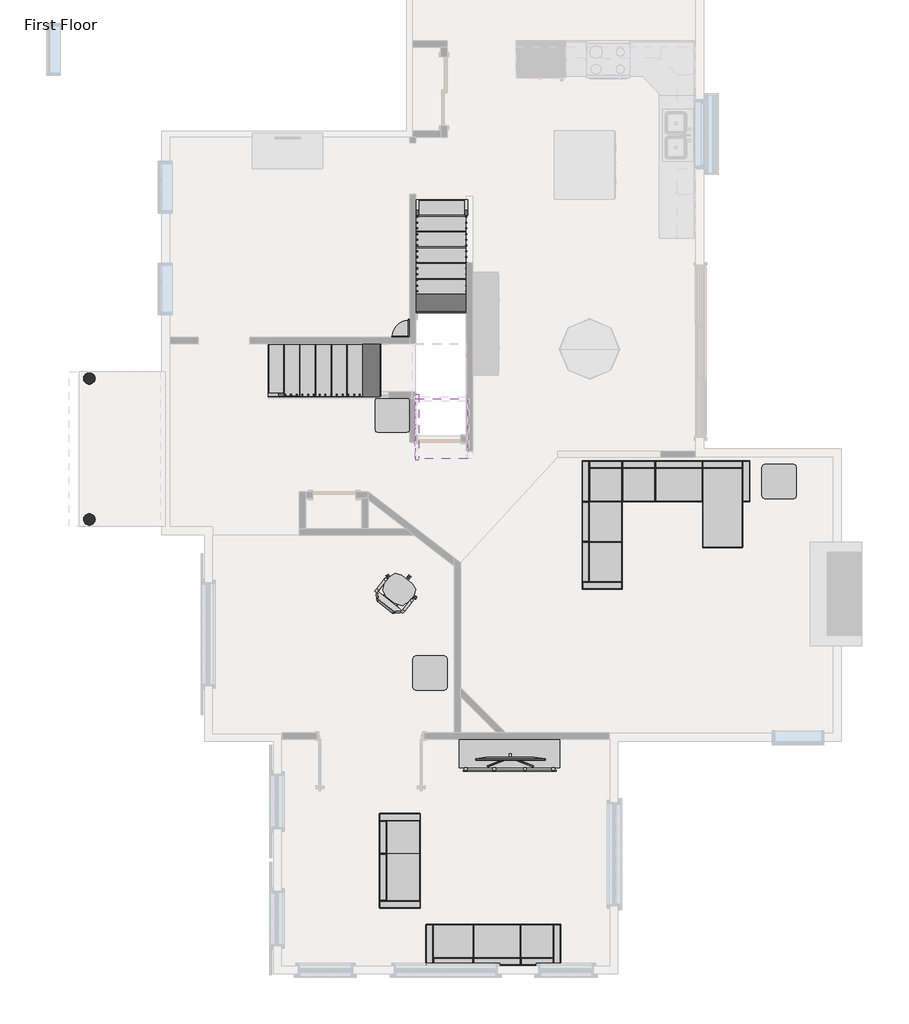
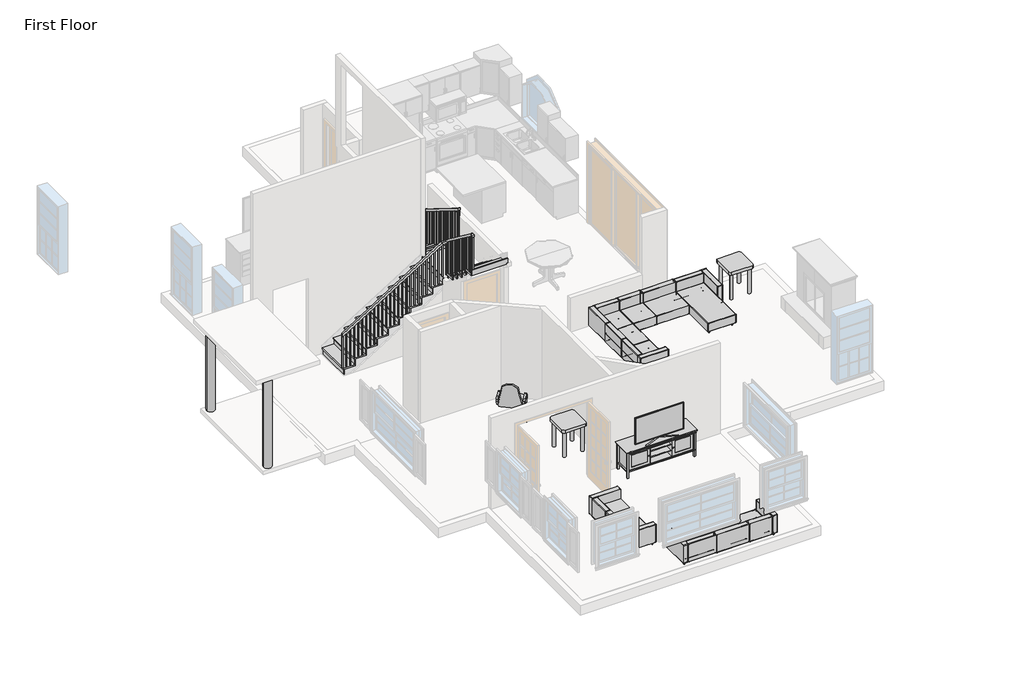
# One storey, part 2 of 3: 10 furniture elements, 4 railings, 3 stair flights, 2 columns.
"""IFC4 building model written with IfcOpenShell, lengths in millimetres."""

from ifc_helpers import new_model, si_unit, frame, origin, place, context, project, spatial, polyline, circle_curve, outline, extrude, faceted_brep, transform, mapped, element, save
from ifc_brep_helpers import plane_surface, cylinder_surface, advanced_brep
from components import chair_executive_chair_executive_328c2b5c, corner_shelf_6857_corner_shelf_6857_70984909, entertainment_center_10899_entertainment_center_10899_10a8ea42, led_tv_55quot_18122_led_tv_55quot_18122_4bed210d, multi_configuration_couch_22894_c0699ef3, multi_configuration_couch_22894_094c0ce7, multi_configuration_couch_22894_couch_5e26b473, multi_configuration_couch_22894_couch_a3e35ec5, multi_configuration_couch_22894_large_sectional_w_chaise_a777d03c, multi_configuration_couch_22894_large_sectional_w_chaise_e7fac233, multi_configuration_couch_22894_large_sectional_w_chaise_6dab8dc7, multi_configuration_couch_22894_large_sectional_w_chaise_7bcb906a, furniture_bcf351fa, stair_flight_06a28670, stair_flight_a5641ca7, stair_flight_c3c6c346

model = new_model("IFC4")

# Units and contexts
model_context = context("Model", 3, world=origin())
ifc_project = project(units=[si_unit("LENGTHUNIT", "METRE", prefix="MILLI")], contexts=[model_context])

# Site, building, storey
site = spatial("IfcSite", under=ifc_project)
building = spatial("IfcBuilding", under=site)
storey = spatial("IfcBuildingStorey", under=building, Name="First Floor", Elevation=0.0)

# Columns
placement = place(None, origin())
element("IfcColumn", 1, ObjectType="Round Column : 8\" Diameter", at=placement, inside=storey, context=model_context, shape_type="AdvancedBrep", body=[
    advanced_brep(
    [(-11886.6105992, -709.8327303, 0.0), (-12089.8105992, -709.8327303, 0.0), (-11988.2105992, -608.2327303, 0.0), (-11886.6105992, -709.8327303, 2362.2), (-11906.4582025, -770.1577303, 2362.2), (-11906.4582025, -770.1577303, 2438.4), (-12069.962996, -770.1577303, 2438.4), (-12069.962996, -770.1577303, 2362.2), (-12089.8105992, -709.8327303, 2362.2), (-11988.2105992, -608.2327303, 2362.2)],
    [
        (0, 1, circle_curve(frame((-11988.2105992, -709.8327303, 0.0), z_axis=(0.0, 0.0, -1.0), x_axis=(1.0, 0.0, 0.0)), 101.6)),
        (1, 2, circle_curve(frame((-11988.2105992, -709.8327303, 0.0), z_axis=(0.0, 0.0, -1.0), x_axis=(1.0, 0.0, 0.0)), 101.6)),
        (2, 0, circle_curve(frame((-11988.2105992, -709.8327303, 0.0), z_axis=(0.0, 0.0, -1.0), x_axis=(1.0, 0.0, 0.0)), 101.6)),
        (0, 3),
        (3, 4, circle_curve(frame((-11988.2105992, -709.8327303, 2362.2), z_axis=(0.0, 0.0, -1.0), x_axis=(1.0, 0.0, 0.0)), 101.6)),
        (4, 5),
        (5, 6, circle_curve(frame((-11988.2105992, -709.8327303, 2438.4), z_axis=(0.0, 0.0, -1.0), x_axis=(1.0, 0.0, 0.0)), 101.6)),
        (6, 7),
        (7, 8, circle_curve(frame((-11988.2105992, -709.8327303, 2362.2), z_axis=(0.0, 0.0, -1.0), x_axis=(1.0, 0.0, 0.0)), 101.6)),
        (8, 1),
        (8, 9, circle_curve(frame((-11988.2105992, -709.8327303, 2362.2), z_axis=(0.0, 0.0, -1.0), x_axis=(1.0, 0.0, 0.0)), 101.6)),
        (9, 2),
        (9, 3, circle_curve(frame((-11988.2105992, -709.8327303, 2362.2), z_axis=(0.0, 0.0, -1.0), x_axis=(1.0, 0.0, 0.0)), 101.6)),
        (5, 6),
        (4, 7),
    ],
    [
        plane_surface(frame((-11886.6105992, -709.8327303, 0.0), z_axis=(0.0, 0.0, -1.0), x_axis=(0.0, -1.0, 0.0))),
        cylinder_surface(frame((-11988.2105992, -709.8327303, 0.0), z_axis=(0.0, 0.0, 1.0), x_axis=(1.0, 0.0, 0.0)), 101.6),
        plane_surface(frame((-11886.6105992, -709.8327303, 2438.4), z_axis=(0.0, 0.0, 1.0), x_axis=(0.0, 1.0, 0.0))),
        plane_surface(frame((-12343.8105992, -770.1577303, 2362.2), z_axis=(0.0, 1.0, 0.0), x_axis=(1.0, 0.0, 0.0))),
        plane_surface(frame((-12343.8105992, -770.1577303, 2362.2), z_axis=(0.0, 0.0, 1.0), x_axis=(0.0, 1.0, 0.0))),
    ],
    [
        (0, [[1, 2, 3]]),
        (1, [[-1, 4, 5, 6, 7, 8, 9, 10]]),
        (1, [[-2, -10, 11, 12]]),
        (1, [[-3, -12, 13, -4]]),
        (2, [[-7, 14]]),
        (3, [[15, -8, -14, -6]]),
        (4, [[-15, -5, -13, -11, -9]]),
    ],
),
])
element("IfcColumn", 2, ObjectType="Round Column : 8\" Diameter", at=placement, inside=storey, context=model_context, shape_type="AdvancedBrep", body=[
    advanced_brep(
    [(-11886.6105992, -3205.3827303, 0.0), (-12089.8105992, -3205.3827303, 0.0), (-11988.2105992, -3103.7827303, 0.0), (-11886.6105992, -3205.3827303, 2362.2), (-12089.8105992, -3205.3827303, 2362.2), (-12074.2876541, -3151.4077303, 2362.2), (-12074.2876541, -3151.4077303, 2438.4), (-11988.2105992, -3103.7827303, 2438.4), (-11902.1335443, -3151.4077303, 2438.4), (-11902.1335443, -3151.4077303, 2362.2)],
    [
        (0, 1, circle_curve(frame((-11988.2105992, -3205.3827303, 0.0), z_axis=(0.0, 0.0, -1.0), x_axis=(1.0, 0.0, 0.0)), 101.6)),
        (1, 2, circle_curve(frame((-11988.2105992, -3205.3827303, 0.0), z_axis=(0.0, 0.0, -1.0), x_axis=(1.0, 0.0, 0.0)), 101.6)),
        (2, 0, circle_curve(frame((-11988.2105992, -3205.3827303, 0.0), z_axis=(0.0, 0.0, -1.0), x_axis=(1.0, 0.0, 0.0)), 101.6)),
        (0, 3),
        (3, 4, circle_curve(frame((-11988.2105992, -3205.3827303, 2362.2), z_axis=(0.0, 0.0, -1.0), x_axis=(1.0, 0.0, 0.0)), 101.6)),
        (4, 1),
        (4, 5, circle_curve(frame((-11988.2105992, -3205.3827303, 2362.2), z_axis=(0.0, 0.0, -1.0), x_axis=(1.0, 0.0, 0.0)), 101.6)),
        (5, 6),
        (6, 7, circle_curve(frame((-11988.2105992, -3205.3827303, 2438.4), z_axis=(0.0, 0.0, -1.0), x_axis=(1.0, 0.0, 0.0)), 101.6)),
        (7, 2),
        (7, 8, circle_curve(frame((-11988.2105992, -3205.3827303, 2438.4), z_axis=(0.0, 0.0, -1.0), x_axis=(1.0, 0.0, 0.0)), 101.6)),
        (8, 9),
        (9, 3, circle_curve(frame((-11988.2105992, -3205.3827303, 2362.2), z_axis=(0.0, 0.0, -1.0), x_axis=(1.0, 0.0, 0.0)), 101.6)),
        (6, 8),
        (5, 9),
    ],
    [
        plane_surface(frame((-11886.6105992, -3205.3827303, 0.0), z_axis=(0.0, 0.0, -1.0), x_axis=(0.0, -1.0, 0.0))),
        cylinder_surface(frame((-11988.2105992, -3205.3827303, 0.0), z_axis=(0.0, 0.0, 1.0), x_axis=(1.0, 0.0, 0.0)), 101.6),
        plane_surface(frame((-11886.6105992, -3205.3827303, 2438.4), z_axis=(0.0, 0.0, 1.0), x_axis=(0.0, 1.0, 0.0))),
        plane_surface(frame((-10732.4980992, -3151.4077303, 2362.2), z_axis=(0.0, -1.0, 0.0), x_axis=(-1.0, 0.0, 0.0))),
        plane_surface(frame((-10642.0105992, -3151.4077303, 2362.2), z_axis=(0.0, 0.0, 1.0), x_axis=(0.0, -1.0, 0.0))),
    ],
    [
        (0, [[1, 2, 3]]),
        (1, [[-1, 4, 5, 6]]),
        (1, [[-2, -6, 7, 8, 9, 10]]),
        (1, [[-3, -10, 11, 12, 13, -4]]),
        (2, [[-11, -9, 14]]),
        (3, [[15, -12, -14, -8]]),
        (4, [[-15, -7, -5, -13]]),
    ],
),
])

# Furniture
chair_executive_chair_executive_shape = chair_executive_chair_executive_328c2b5c(model_context)
element("IfcFurniture", 3, ObjectType="Chair-Executive : Chair-Executive", at=placement, inside=storey, context=model_context, shape_type="MappedRepresentation", body=[
    mapped(chair_executive_chair_executive_shape, transform((-6645.7142249, -4403.8618379, 6.35), x_axis=(0.7821446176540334, -0.6230969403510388, 0.0), y_axis=(0.6230969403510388, 0.7821446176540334, 0.0), z_axis=(0.0, 0.0, 1.0))),
])
corner_shelf_6857_corner_shelf_6857_shape = corner_shelf_6857_corner_shelf_6857_70984909(model_context)
element("IfcFurniture", 4, ObjectType="Corner_Shelf_6857 : Corner_Shelf_6857", at=placement, inside=storey, context=model_context, shape_type="MappedRepresentation", body=[
    mapped(corner_shelf_6857_corner_shelf_6857_shape, transform((-6316.0730992, -36.7327303, -304.8), x_axis=(1.0, 0.0, 0.0), y_axis=(0.0, 1.0, 0.0), z_axis=(0.0, 0.0, 1.0))),
])
entertainment_center_10899_entertainment_center_10899_shape = entertainment_center_10899_entertainment_center_10899_10a8ea42(model_context)
element("IfcFurniture", 5, ObjectType="Entertainment_Center_10899 : Entertainment_Center_10899", at=placement, inside=storey, context=model_context, shape_type="MappedRepresentation", body=[
    mapped(entertainment_center_10899_entertainment_center_10899_shape, transform((-4542.8355992, -7355.1077303, 6.35), x_axis=(1.0, 0.0, 0.0), y_axis=(0.0, 1.0, 0.0), z_axis=(0.0, 0.0, 1.0))),
])
led_tv_55quot_18122_led_tv_55quot_18122_shape = led_tv_55quot_18122_led_tv_55quot_18122_4bed210d(model_context)
element("IfcFurniture", 6, ObjectType="LED_TV_55quot_18122 : LED_TV_55quot_18122", at=placement, inside=storey, context=model_context, shape_type="MappedRepresentation", body=[
    mapped(led_tv_55quot_18122_led_tv_55quot_18122_shape, transform((-5490.5730992, -7450.3577303, 86.3803369), x_axis=(1.0, 0.0, 0.0), y_axis=(0.0, 1.0, 0.0), z_axis=(0.0, 0.0, 1.0))),
])
multi_configuration_couch_22894_shape = multi_configuration_couch_22894_c0699ef3(model_context)
multi_configuration_couch_22894_2_shape = multi_configuration_couch_22894_094c0ce7(model_context)
element("IfcFurniture", 7, ObjectType="Multi-Configuration_Couch_22894 : Love Seat 2", at=placement, inside=storey, context=model_context, shape_type="MappedRepresentation", body=[
    mapped(multi_configuration_couch_22894_shape, transform((-6020.74605, -9827.1315008, 6.35), x_axis=(0.0, 1.0, 0.0), y_axis=(-1.0, 0.0, 0.0), z_axis=(0.0, 0.0, 1.0))),
    mapped(multi_configuration_couch_22894_2_shape, transform((-6020.74605, -9827.1315008, 6.35), x_axis=(0.0, 1.0, 0.0), y_axis=(-1.0, 0.0, 0.0), z_axis=(0.0, 0.0, 1.0))),
])
multi_configuration_couch_22894_couch_shape = multi_configuration_couch_22894_couch_5e26b473(model_context)
multi_configuration_couch_22894_couch_2_shape = multi_configuration_couch_22894_couch_a3e35ec5(model_context)
element("IfcFurniture", 8, ObjectType="Multi-Configuration_Couch_22894 : Couch", at=placement, inside=storey, context=model_context, shape_type="MappedRepresentation", body=[
    mapped(multi_configuration_couch_22894_couch_shape, transform((-5047.9468697, -10272.8806812, 6.35), x_axis=(1.0, 0.0, 0.0), y_axis=(0.0, 1.0, 0.0), z_axis=(0.0, 0.0, 1.0))),
    mapped(multi_configuration_couch_22894_couch_2_shape, transform((-5047.9468697, -10272.8806812, 6.35), x_axis=(1.0, 0.0, 0.0), y_axis=(0.0, 1.0, 0.0), z_axis=(0.0, 0.0, 1.0))),
])
multi_configuration_couch_22894_large_sectional_w_chaise_shape = multi_configuration_couch_22894_large_sectional_w_chaise_a777d03c(model_context)
multi_configuration_couch_22894_large_sectional_w_chaise_2_shape = multi_configuration_couch_22894_large_sectional_w_chaise_e7fac233(model_context)
multi_configuration_couch_22894_large_sectional_w_chaise_3_shape = multi_configuration_couch_22894_large_sectional_w_chaise_6dab8dc7(model_context)
multi_configuration_couch_22894_large_sectional_w_chaise_4_shape = multi_configuration_couch_22894_large_sectional_w_chaise_7bcb906a(model_context)
element("IfcFurniture", 9, ObjectType="Multi-Configuration_Couch_22894 : Large Sectional W/ Chaise", at=placement, inside=storey, context=model_context, shape_type="MappedRepresentation", body=[
    mapped(multi_configuration_couch_22894_large_sectional_w_chaise_shape, transform((-1262.7743287, -2997.4722795, 6.35), x_axis=(-1.0, 0.0, 0.0), y_axis=(0.0, -1.0, 0.0), z_axis=(0.0, 0.0, 1.0))),
    mapped(multi_configuration_couch_22894_large_sectional_w_chaise_2_shape, transform((-1262.7743287, -2997.4722795, 6.35), x_axis=(-1.0, 0.0, 0.0), y_axis=(0.0, -1.0, 0.0), z_axis=(0.0, 0.0, 1.0))),
    mapped(multi_configuration_couch_22894_large_sectional_w_chaise_3_shape, transform((-1262.7743287, -2997.4722795, 6.35), x_axis=(-1.0, 0.0, 0.0), y_axis=(0.0, -1.0, 0.0), z_axis=(0.0, 0.0, 1.0))),
    mapped(multi_configuration_couch_22894_large_sectional_w_chaise_4_shape, transform((-1262.7743287, -2997.4722795, 6.35), x_axis=(-1.0, 0.0, 0.0), y_axis=(0.0, -1.0, 0.0), z_axis=(0.0, 0.0, 1.0))),
])
furniture_shape = furniture_bcf351fa(model_context)
element("IfcFurniture", 10, ObjectType="Table-End : 24\" x 24\"", at=placement, inside=storey, context=model_context, shape_type="MappedRepresentation", body=[
    mapped(furniture_shape, transform((-6259.4817295, -6081.9327303, 6.35), x_axis=(1.0, 0.0, 0.0), y_axis=(0.0, 1.0, 0.0), z_axis=(0.0, 0.0, 1.0))),
])
element("IfcFurniture", 11, ObjectType="Table-End : 24\" x 24\"", at=placement, inside=storey, context=model_context, shape_type="MappedRepresentation", body=[
    mapped(furniture_shape, transform((-76.1692295, -2689.4452303, 6.35), x_axis=(1.0, 0.0, 0.0), y_axis=(0.0, 1.0, 0.0), z_axis=(0.0, 0.0, 1.0))),
])
element("IfcFurniture", 12, ObjectType="Table-End : 24\" x 24\"", at=placement, inside=storey, context=model_context, shape_type="MappedRepresentation", body=[
    mapped(furniture_shape, transform((-6929.4067295, -1514.6952303, 6.35), x_axis=(1.0, 0.0, 0.0), y_axis=(0.0, 1.0, 0.0), z_axis=(0.0, 0.0, 1.0))),
])

# Railings
element("IfcRailing", 13, ObjectType="Handrail - Rectangular", at=placement, inside=storey, context=model_context, shape_type="SolidModel", body=[
    faceted_brep([(-8822.2912574, -971.7702303, 1088.5714286), (-8822.2912574, -971.7702303, 1028.7093152), (-8822.2912574, -1022.5702303, 1028.7093152), (-8822.2912574, -1022.5702303, 1088.5714286), (-6307.6912574, -971.7702303, 2656.1142857), (-6293.1541172, -971.7702303, 2605.3142857), (-6293.1541172, -1022.5702303, 2605.3142857), (-6307.6912574, -1022.5702303, 2656.1142857), (-6148.9412574, -971.7702303, 2656.1142857), (-6148.9412574, -1022.5702303, 2656.1142857), (-6148.9412574, -1022.5702303, 2605.3142857), (-6148.9412574, -971.7702303, 2605.3142857)], [[[0, 1, 2, 3]], [[1, 0, 4, 5]], [[2, 1, 5, 6]], [[3, 2, 6, 7]], [[0, 3, 7, 4]], [[8, 9, 10, 11]], [[5, 4, 8, 11]], [[6, 5, 11, 10]], [[7, 6, 10, 9]], [[4, 7, 9, 8]]]),
    extrude(outline(polyline([(-6190.2162574, -1006.6952303), (-6190.2162574, -987.6452303), (-6171.1662574, -987.6452303), (-6171.1662574, -1006.6952303), (-6190.2162574, -1006.6952303)])), frame((0.0, 0.0, 1741.7142857), z_axis=(0.0, 0.0, 1.0), x_axis=(1.0, 0.0, 0.0)), (0.0, 0.0, 1.0), 863.6),
    extrude(outline(polyline([(-6291.8162574, -1006.6952303), (-6291.8162574, -987.6452303), (-6272.7662574, -987.6452303), (-6272.7662574, -1006.6952303), (-6291.8162574, -1006.6952303)])), frame((0.0, 0.0, 1741.7142857), z_axis=(0.0, 0.0, 1.0), x_axis=(1.0, 0.0, 0.0)), (0.0, 0.0, 1.0), 863.6),
    extrude(outline(polyline([(2554.688536, -6374.3662574), (2542.8132113, -6393.4162574), (1567.5428571, -6393.4162574), (1567.5428571, -6374.3662574), (2554.688536, -6374.3662574)])), frame((0.0, -1006.6952303, 0.0), z_axis=(0.0, 1.0, 0.0), x_axis=(0.0, 0.0, 1.0)), (0.0, 0.0, 1.0), 19.05),
    extrude(outline(polyline([(2491.3534711, -6475.9662574), (2479.4781464, -6495.0162574), (1567.5428571, -6495.0162574), (1567.5428571, -6475.9662574), (2491.3534711, -6475.9662574)])), frame((0.0, -1006.6952303, 0.0), z_axis=(0.0, 1.0, 0.0), x_axis=(0.0, 0.0, 1.0)), (0.0, 0.0, 1.0), 19.05),
    extrude(outline(polyline([(2428.0184061, -6577.5662574), (2416.1430815, -6596.6162574), (1567.5428571, -6596.6162574), (1567.5428571, -6577.5662574), (2428.0184061, -6577.5662574)])), frame((0.0, -1006.6952303, 0.0), z_axis=(0.0, 1.0, 0.0), x_axis=(0.0, 0.0, 1.0)), (0.0, 0.0, 1.0), 19.05),
    extrude(outline(polyline([(2364.6833412, -6679.1662574), (2352.8080165, -6698.2162574), (1393.3714286, -6698.2162574), (1393.3714286, -6679.1662574), (2364.6833412, -6679.1662574)])), frame((0.0, -1006.6952303, 0.0), z_axis=(0.0, 1.0, 0.0), x_axis=(0.0, 0.0, 1.0)), (0.0, 0.0, 1.0), 19.05),
    extrude(outline(polyline([(2301.3482763, -6780.7662574), (2289.4729516, -6799.8162574), (1393.3714286, -6799.8162574), (1393.3714286, -6780.7662574), (2301.3482763, -6780.7662574)])), frame((0.0, -1006.6952303, 0.0), z_axis=(0.0, 1.0, 0.0), x_axis=(0.0, 0.0, 1.0)), (0.0, 0.0, 1.0), 19.05),
    extrude(outline(polyline([(2238.0132113, -6882.3662574), (2226.1378867, -6901.4162574), (1219.2, -6901.4162574), (1219.2, -6882.3662574), (2238.0132113, -6882.3662574)])), frame((0.0, -1006.6952303, 0.0), z_axis=(0.0, 1.0, 0.0), x_axis=(0.0, 0.0, 1.0)), (0.0, 0.0, 1.0), 19.05),
    extrude(outline(polyline([(2174.6781464, -6983.9662574), (2162.8028217, -7003.0162574), (1219.2, -7003.0162574), (1219.2, -6983.9662574), (2174.6781464, -6983.9662574)])), frame((0.0, -1006.6952303, 0.0), z_axis=(0.0, 1.0, 0.0), x_axis=(0.0, 0.0, 1.0)), (0.0, 0.0, 1.0), 19.05),
    extrude(outline(polyline([(2111.3430815, -7085.5662574), (2099.4677568, -7104.6162574), (1219.2, -7104.6162574), (1219.2, -7085.5662574), (2111.3430815, -7085.5662574)])), frame((0.0, -1006.6952303, 0.0), z_axis=(0.0, 1.0, 0.0), x_axis=(0.0, 0.0, 1.0)), (0.0, 0.0, 1.0), 19.05),
    extrude(outline(polyline([(2048.0080165, -7187.1662574), (2036.1326919, -7206.2162574), (1045.0285714, -7206.2162574), (1045.0285714, -7187.1662574), (2048.0080165, -7187.1662574)])), frame((0.0, -1006.6952303, 0.0), z_axis=(0.0, 1.0, 0.0), x_axis=(0.0, 0.0, 1.0)), (0.0, 0.0, 1.0), 19.05),
    extrude(outline(polyline([(1984.6729516, -7288.7662574), (1972.7976269, -7307.8162574), (1045.0285714, -7307.8162574), (1045.0285714, -7288.7662574), (1984.6729516, -7288.7662574)])), frame((0.0, -1006.6952303, 0.0), z_axis=(0.0, 1.0, 0.0), x_axis=(0.0, 0.0, 1.0)), (0.0, 0.0, 1.0), 19.05),
    extrude(outline(polyline([(1921.3378867, -7390.3662574), (1909.462562, -7409.4162574), (1045.0285714, -7409.4162574), (1045.0285714, -7390.3662574), (1921.3378867, -7390.3662574)])), frame((0.0, -1006.6952303, 0.0), z_axis=(0.0, 1.0, 0.0), x_axis=(0.0, 0.0, 1.0)), (0.0, 0.0, 1.0), 19.05),
    extrude(outline(polyline([(1858.0028217, -7491.9662574), (1846.1274971, -7511.0162574), (870.8571429, -7511.0162574), (870.8571429, -7491.9662574), (1858.0028217, -7491.9662574)])), frame((0.0, -1006.6952303, 0.0), z_axis=(0.0, 1.0, 0.0), x_axis=(0.0, 0.0, 1.0)), (0.0, 0.0, 1.0), 19.05),
    extrude(outline(polyline([(1794.6677568, -7593.5662574), (1782.7924321, -7612.6162574), (870.8571429, -7612.6162574), (870.8571429, -7593.5662574), (1794.6677568, -7593.5662574)])), frame((0.0, -1006.6952303, 0.0), z_axis=(0.0, 1.0, 0.0), x_axis=(0.0, 0.0, 1.0)), (0.0, 0.0, 1.0), 19.05),
    extrude(outline(polyline([(1731.3326919, -7695.1662574), (1719.4573672, -7714.2162574), (870.8571429, -7714.2162574), (870.8571429, -7695.1662574), (1731.3326919, -7695.1662574)])), frame((0.0, -1006.6952303, 0.0), z_axis=(0.0, 1.0, 0.0), x_axis=(0.0, 0.0, 1.0)), (0.0, 0.0, 1.0), 19.05),
    extrude(outline(polyline([(1667.9976269, -7796.7662574), (1656.1223023, -7815.8162574), (696.6857143, -7815.8162574), (696.6857143, -7796.7662574), (1667.9976269, -7796.7662574)])), frame((0.0, -1006.6952303, 0.0), z_axis=(0.0, 1.0, 0.0), x_axis=(0.0, 0.0, 1.0)), (0.0, 0.0, 1.0), 19.05),
    extrude(outline(polyline([(1604.662562, -7898.3662574), (1592.7872373, -7917.4162574), (696.6857143, -7917.4162574), (696.6857143, -7898.3662574), (1604.662562, -7898.3662574)])), frame((0.0, -1006.6952303, 0.0), z_axis=(0.0, 1.0, 0.0), x_axis=(0.0, 0.0, 1.0)), (0.0, 0.0, 1.0), 19.05),
    extrude(outline(polyline([(1541.3274971, -7999.9662574), (1529.4521724, -8019.0162574), (522.5142857, -8019.0162574), (522.5142857, -7999.9662574), (1541.3274971, -7999.9662574)])), frame((0.0, -1006.6952303, 0.0), z_axis=(0.0, 1.0, 0.0), x_axis=(0.0, 0.0, 1.0)), (0.0, 0.0, 1.0), 19.05),
    extrude(outline(polyline([(1477.9924321, -8101.5662574), (1466.1171074, -8120.6162574), (522.5142857, -8120.6162574), (522.5142857, -8101.5662574), (1477.9924321, -8101.5662574)])), frame((0.0, -1006.6952303, 0.0), z_axis=(0.0, 1.0, 0.0), x_axis=(0.0, 0.0, 1.0)), (0.0, 0.0, 1.0), 19.05),
    extrude(outline(polyline([(1414.6573672, -8203.1662574), (1402.7820425, -8222.2162574), (522.5142857, -8222.2162574), (522.5142857, -8203.1662574), (1414.6573672, -8203.1662574)])), frame((0.0, -1006.6952303, 0.0), z_axis=(0.0, 1.0, 0.0), x_axis=(0.0, 0.0, 1.0)), (0.0, 0.0, 1.0), 19.05),
    extrude(outline(polyline([(1351.3223023, -8304.7662574), (1339.4469776, -8323.8162574), (348.3428571, -8323.8162574), (348.3428571, -8304.7662574), (1351.3223023, -8304.7662574)])), frame((0.0, -1006.6952303, 0.0), z_axis=(0.0, 1.0, 0.0), x_axis=(0.0, 0.0, 1.0)), (0.0, 0.0, 1.0), 19.05),
    extrude(outline(polyline([(1287.9872373, -8406.3662574), (1276.1119126, -8425.4162574), (348.3428571, -8425.4162574), (348.3428571, -8406.3662574), (1287.9872373, -8406.3662574)])), frame((0.0, -1006.6952303, 0.0), z_axis=(0.0, 1.0, 0.0), x_axis=(0.0, 0.0, 1.0)), (0.0, 0.0, 1.0), 19.05),
    extrude(outline(polyline([(1224.6521724, -8507.9662574), (1212.7768477, -8527.0162574), (348.3428571, -8527.0162574), (348.3428571, -8507.9662574), (1224.6521724, -8507.9662574)])), frame((0.0, -1006.6952303, 0.0), z_axis=(0.0, 1.0, 0.0), x_axis=(0.0, 0.0, 1.0)), (0.0, 0.0, 1.0), 19.05),
    extrude(outline(polyline([(1161.3171074, -8609.5662574), (1149.4417828, -8628.6162574), (174.1714286, -8628.6162574), (174.1714286, -8609.5662574), (1161.3171074, -8609.5662574)])), frame((0.0, -1006.6952303, 0.0), z_axis=(0.0, 1.0, 0.0), x_axis=(0.0, 0.0, 1.0)), (0.0, 0.0, 1.0), 19.05),
    extrude(outline(polyline([(1097.9820425, -8711.1662574), (1086.1067178, -8730.2162574), (174.1714286, -8730.2162574), (174.1714286, -8711.1662574), (1097.9820425, -8711.1662574)])), frame((0.0, -1006.6952303, 0.0), z_axis=(0.0, 1.0, 0.0), x_axis=(0.0, 0.0, 1.0)), (0.0, 0.0, 1.0), 19.05),
    extrude(outline(polyline([(-6167.9912574, -1006.6952303), (-6167.9912574, -987.6452303), (-6148.9412574, -987.6452303), (-6148.9412574, -1006.6952303), (-6167.9912574, -1006.6952303)])), frame((0.0, 0.0, 1741.7142857), z_axis=(0.0, 0.0, 1.0), x_axis=(1.0, 0.0, 0.0)), (0.0, 0.0, 1.0), 863.6),
    extrude(outline(polyline([(1040.5846399, -8803.2412574), (1028.7093152, -8822.2912574), (174.1714286, -8822.2912574), (174.1714286, -8803.2412574), (1040.5846399, -8803.2412574)])), frame((0.0, -1006.6952303, 0.0), z_axis=(0.0, 1.0, 0.0), x_axis=(0.0, 0.0, 1.0)), (0.0, 0.0, 1.0), 19.05),
])
element("IfcRailing", 14, ObjectType="Handrail - Rectangular", at=placement, inside=storey, context=model_context, shape_type="SolidModel", body=[
    faceted_brep([(-6150.9730992, -993.9952303, 2686.05), (-6150.9730992, -993.9952303, 2622.55), (-6201.7730992, -993.9952303, 2622.55), (-6201.7730992, -993.9952303, 2686.05), (-6150.9730992, -2086.1952303, 3505.2), (-6150.9730992, -2103.1285637, 3454.4), (-6201.7730992, -2103.1285637, 3454.4), (-6201.7730992, -2086.1952303, 3505.2), (-6150.9730992, -2162.3952303, 3505.2), (-6201.7730992, -2162.3952303, 3505.2), (-6201.7730992, -2162.3952303, 3454.4), (-6150.9730992, -2162.3952303, 3454.4)], [[[0, 1, 2, 3]], [[1, 0, 4, 5]], [[2, 1, 5, 6]], [[3, 2, 6, 7]], [[0, 3, 7, 4]], [[8, 9, 10, 11]], [[5, 4, 8, 11]], [[6, 5, 11, 10]], [[7, 6, 10, 9]], [[4, 7, 9, 8]]]),
    extrude(outline(polyline([(-6185.8980992, -2102.0702303), (-6166.8480992, -2102.0702303), (-6166.8480992, -2121.1202303), (-6185.8980992, -2121.1202303), (-6185.8980992, -2102.0702303)])), frame((0.0, 0.0, 2590.8), z_axis=(0.0, 0.0, 1.0), x_axis=(1.0, 0.0, 0.0)), (0.0, 0.0, 1.0), 863.6),
    extrude(outline(polyline([(-2019.5202303, 3391.69375), (-2000.4702303, 3377.40625), (-2000.4702303, 2438.4), (-2019.5202303, 2438.4), (-2019.5202303, 3391.69375)])), frame((-6185.8980992, 0.0, 0.0), z_axis=(1.0, 0.0, 0.0), x_axis=(0.0, 1.0, 0.0)), (0.0, 0.0, 1.0), 19.05),
    extrude(outline(polyline([(-1917.9202303, 3315.49375), (-1898.8702303, 3301.20625), (-1898.8702303, 2438.4), (-1917.9202303, 2438.4), (-1917.9202303, 3315.49375)])), frame((-6185.8980992, 0.0, 0.0), z_axis=(1.0, 0.0, 0.0), x_axis=(0.0, 1.0, 0.0)), (0.0, 0.0, 1.0), 19.05),
    extrude(outline(polyline([(-1816.3202303, 3239.29375), (-1797.2702303, 3225.00625), (-1797.2702303, 2286.0), (-1816.3202303, 2286.0), (-1816.3202303, 3239.29375)])), frame((-6185.8980992, 0.0, 0.0), z_axis=(1.0, 0.0, 0.0), x_axis=(0.0, 1.0, 0.0)), (0.0, 0.0, 1.0), 19.05),
    extrude(outline(polyline([(-1714.7202303, 3163.09375), (-1695.6702303, 3148.80625), (-1695.6702303, 2286.0), (-1714.7202303, 2286.0), (-1714.7202303, 3163.09375)])), frame((-6185.8980992, 0.0, 0.0), z_axis=(1.0, 0.0, 0.0), x_axis=(0.0, 1.0, 0.0)), (0.0, 0.0, 1.0), 19.05),
    extrude(outline(polyline([(-1613.1202303, 3086.89375), (-1594.0702303, 3072.60625), (-1594.0702303, 2133.6), (-1613.1202303, 2133.6), (-1613.1202303, 3086.89375)])), frame((-6185.8980992, 0.0, 0.0), z_axis=(1.0, 0.0, 0.0), x_axis=(0.0, 1.0, 0.0)), (0.0, 0.0, 1.0), 19.05),
    extrude(outline(polyline([(-1511.5202303, 3010.69375), (-1492.4702303, 2996.40625), (-1492.4702303, 2133.6), (-1511.5202303, 2133.6), (-1511.5202303, 3010.69375)])), frame((-6185.8980992, 0.0, 0.0), z_axis=(1.0, 0.0, 0.0), x_axis=(0.0, 1.0, 0.0)), (0.0, 0.0, 1.0), 19.05),
    extrude(outline(polyline([(-1409.9202303, 2934.49375), (-1390.8702303, 2920.20625), (-1390.8702303, 1981.2), (-1409.9202303, 1981.2), (-1409.9202303, 2934.49375)])), frame((-6185.8980992, 0.0, 0.0), z_axis=(1.0, 0.0, 0.0), x_axis=(0.0, 1.0, 0.0)), (0.0, 0.0, 1.0), 19.05),
    extrude(outline(polyline([(-1308.3202303, 2858.29375), (-1289.2702303, 2844.00625), (-1289.2702303, 1981.2), (-1308.3202303, 1981.2), (-1308.3202303, 2858.29375)])), frame((-6185.8980992, 0.0, 0.0), z_axis=(1.0, 0.0, 0.0), x_axis=(0.0, 1.0, 0.0)), (0.0, 0.0, 1.0), 19.05),
    extrude(outline(polyline([(-1206.7202303, 2782.09375), (-1187.6702303, 2767.80625), (-1187.6702303, 1828.8), (-1206.7202303, 1828.8), (-1206.7202303, 2782.09375)])), frame((-6185.8980992, 0.0, 0.0), z_axis=(1.0, 0.0, 0.0), x_axis=(0.0, 1.0, 0.0)), (0.0, 0.0, 1.0), 19.05),
    extrude(outline(polyline([(-1105.1202303, 2705.89375), (-1086.0702303, 2691.60625), (-1086.0702303, 1828.8), (-1105.1202303, 1828.8), (-1105.1202303, 2705.89375)])), frame((-6185.8980992, 0.0, 0.0), z_axis=(1.0, 0.0, 0.0), x_axis=(0.0, 1.0, 0.0)), (0.0, 0.0, 1.0), 19.05),
    extrude(outline(polyline([(-6185.8980992, -2143.3452303), (-6166.8480992, -2143.3452303), (-6166.8480992, -2162.3952303), (-6185.8980992, -2162.3952303), (-6185.8980992, -2143.3452303)])), frame((0.0, 0.0, 2590.8), z_axis=(0.0, 0.0, 1.0), x_axis=(1.0, 0.0, 0.0)), (0.0, 0.0, 1.0), 863.6),
    extrude(outline(polyline([(-1013.0452303, 2636.8375), (-993.9952303, 2622.55), (-993.9952303, 1778.79375), (-1013.0452303, 1778.79375), (-1013.0452303, 2636.8375)])), frame((-6185.8980992, 0.0, 0.0), z_axis=(1.0, 0.0, 0.0), x_axis=(0.0, 1.0, 0.0)), (0.0, 0.0, 1.0), 19.05),
])
element("IfcRailing", 15, ObjectType="Handrail - Rectangular", at=placement, inside=storey, context=model_context, shape_type="SweptSolid", body=[
    extrude(outline(polyline([(2457.2297697, 1088.5714286), (2457.2297697, 1028.7093152), (-57.3702303, 2596.2521724), (-57.3702303, 2656.1142857), (2457.2297697, 1088.5714286)])), frame((-6201.7730992, 0.0, 0.0), z_axis=(1.0, 0.0, 0.0), x_axis=(0.0, 1.0, 0.0)), (0.0, 0.0, 1.0), 50.8),
    extrude(outline(polyline([(9.3047697, 2554.688536), (28.3547697, 2542.8132113), (28.3547697, 1567.5428571), (9.3047697, 1567.5428571), (9.3047697, 2554.688536)])), frame((-6185.8980992, 0.0, 0.0), z_axis=(1.0, 0.0, 0.0), x_axis=(0.0, 1.0, 0.0)), (0.0, 0.0, 1.0), 19.05),
    extrude(outline(polyline([(110.9047697, 2491.3534711), (129.9547697, 2479.4781464), (129.9547697, 1567.5428571), (110.9047697, 1567.5428571), (110.9047697, 2491.3534711)])), frame((-6185.8980992, 0.0, 0.0), z_axis=(1.0, 0.0, 0.0), x_axis=(0.0, 1.0, 0.0)), (0.0, 0.0, 1.0), 19.05),
    extrude(outline(polyline([(212.5047697, 2428.0184061), (231.5547697, 2416.1430815), (231.5547697, 1567.5428571), (212.5047697, 1567.5428571), (212.5047697, 2428.0184061)])), frame((-6185.8980992, 0.0, 0.0), z_axis=(1.0, 0.0, 0.0), x_axis=(0.0, 1.0, 0.0)), (0.0, 0.0, 1.0), 19.05),
    extrude(outline(polyline([(314.1047697, 2364.6833412), (333.1547697, 2352.8080165), (333.1547697, 1393.3714286), (314.1047697, 1393.3714286), (314.1047697, 2364.6833412)])), frame((-6185.8980992, 0.0, 0.0), z_axis=(1.0, 0.0, 0.0), x_axis=(0.0, 1.0, 0.0)), (0.0, 0.0, 1.0), 19.05),
    extrude(outline(polyline([(415.7047697, 2301.3482763), (434.7547697, 2289.4729516), (434.7547697, 1393.3714286), (415.7047697, 1393.3714286), (415.7047697, 2301.3482763)])), frame((-6185.8980992, 0.0, 0.0), z_axis=(1.0, 0.0, 0.0), x_axis=(0.0, 1.0, 0.0)), (0.0, 0.0, 1.0), 19.05),
    extrude(outline(polyline([(517.3047697, 2238.0132113), (536.3547697, 2226.1378867), (536.3547697, 1219.2), (517.3047697, 1219.2), (517.3047697, 2238.0132113)])), frame((-6185.8980992, 0.0, 0.0), z_axis=(1.0, 0.0, 0.0), x_axis=(0.0, 1.0, 0.0)), (0.0, 0.0, 1.0), 19.05),
    extrude(outline(polyline([(618.9047697, 2174.6781464), (637.9547697, 2162.8028217), (637.9547697, 1219.2), (618.9047697, 1219.2), (618.9047697, 2174.6781464)])), frame((-6185.8980992, 0.0, 0.0), z_axis=(1.0, 0.0, 0.0), x_axis=(0.0, 1.0, 0.0)), (0.0, 0.0, 1.0), 19.05),
    extrude(outline(polyline([(720.5047697, 2111.3430815), (739.5547697, 2099.4677568), (739.5547697, 1219.2), (720.5047697, 1219.2), (720.5047697, 2111.3430815)])), frame((-6185.8980992, 0.0, 0.0), z_axis=(1.0, 0.0, 0.0), x_axis=(0.0, 1.0, 0.0)), (0.0, 0.0, 1.0), 19.05),
    extrude(outline(polyline([(822.1047697, 2048.0080165), (841.1547697, 2036.1326919), (841.1547697, 1045.0285714), (822.1047697, 1045.0285714), (822.1047697, 2048.0080165)])), frame((-6185.8980992, 0.0, 0.0), z_axis=(1.0, 0.0, 0.0), x_axis=(0.0, 1.0, 0.0)), (0.0, 0.0, 1.0), 19.05),
    extrude(outline(polyline([(923.7047697, 1984.6729516), (942.7547697, 1972.7976269), (942.7547697, 1045.0285714), (923.7047697, 1045.0285714), (923.7047697, 1984.6729516)])), frame((-6185.8980992, 0.0, 0.0), z_axis=(1.0, 0.0, 0.0), x_axis=(0.0, 1.0, 0.0)), (0.0, 0.0, 1.0), 19.05),
    extrude(outline(polyline([(1025.3047697, 1921.3378867), (1044.3547697, 1909.462562), (1044.3547697, 1045.0285714), (1025.3047697, 1045.0285714), (1025.3047697, 1921.3378867)])), frame((-6185.8980992, 0.0, 0.0), z_axis=(1.0, 0.0, 0.0), x_axis=(0.0, 1.0, 0.0)), (0.0, 0.0, 1.0), 19.05),
    extrude(outline(polyline([(1126.9047697, 1858.0028217), (1145.9547697, 1846.1274971), (1145.9547697, 870.8571429), (1126.9047697, 870.8571429), (1126.9047697, 1858.0028217)])), frame((-6185.8980992, 0.0, 0.0), z_axis=(1.0, 0.0, 0.0), x_axis=(0.0, 1.0, 0.0)), (0.0, 0.0, 1.0), 19.05),
    extrude(outline(polyline([(1228.5047697, 1794.6677568), (1247.5547697, 1782.7924321), (1247.5547697, 870.8571429), (1228.5047697, 870.8571429), (1228.5047697, 1794.6677568)])), frame((-6185.8980992, 0.0, 0.0), z_axis=(1.0, 0.0, 0.0), x_axis=(0.0, 1.0, 0.0)), (0.0, 0.0, 1.0), 19.05),
    extrude(outline(polyline([(1330.1047697, 1731.3326919), (1349.1547697, 1719.4573672), (1349.1547697, 870.8571429), (1330.1047697, 870.8571429), (1330.1047697, 1731.3326919)])), frame((-6185.8980992, 0.0, 0.0), z_axis=(1.0, 0.0, 0.0), x_axis=(0.0, 1.0, 0.0)), (0.0, 0.0, 1.0), 19.05),
    extrude(outline(polyline([(1431.7047697, 1667.9976269), (1450.7547697, 1656.1223023), (1450.7547697, 696.6857143), (1431.7047697, 696.6857143), (1431.7047697, 1667.9976269)])), frame((-6185.8980992, 0.0, 0.0), z_axis=(1.0, 0.0, 0.0), x_axis=(0.0, 1.0, 0.0)), (0.0, 0.0, 1.0), 19.05),
    extrude(outline(polyline([(1533.3047697, 1604.662562), (1552.3547697, 1592.7872373), (1552.3547697, 696.6857143), (1533.3047697, 696.6857143), (1533.3047697, 1604.662562)])), frame((-6185.8980992, 0.0, 0.0), z_axis=(1.0, 0.0, 0.0), x_axis=(0.0, 1.0, 0.0)), (0.0, 0.0, 1.0), 19.05),
    extrude(outline(polyline([(1634.9047697, 1541.3274971), (1653.9547697, 1529.4521724), (1653.9547697, 522.5142857), (1634.9047697, 522.5142857), (1634.9047697, 1541.3274971)])), frame((-6185.8980992, 0.0, 0.0), z_axis=(1.0, 0.0, 0.0), x_axis=(0.0, 1.0, 0.0)), (0.0, 0.0, 1.0), 19.05),
    extrude(outline(polyline([(1736.5047697, 1477.9924321), (1755.5547697, 1466.1171074), (1755.5547697, 522.5142857), (1736.5047697, 522.5142857), (1736.5047697, 1477.9924321)])), frame((-6185.8980992, 0.0, 0.0), z_axis=(1.0, 0.0, 0.0), x_axis=(0.0, 1.0, 0.0)), (0.0, 0.0, 1.0), 19.05),
    extrude(outline(polyline([(1838.1047697, 1414.6573672), (1857.1547697, 1402.7820425), (1857.1547697, 522.5142857), (1838.1047697, 522.5142857), (1838.1047697, 1414.6573672)])), frame((-6185.8980992, 0.0, 0.0), z_axis=(1.0, 0.0, 0.0), x_axis=(0.0, 1.0, 0.0)), (0.0, 0.0, 1.0), 19.05),
    extrude(outline(polyline([(1939.7047697, 1351.3223023), (1958.7547697, 1339.4469776), (1958.7547697, 348.3428571), (1939.7047697, 348.3428571), (1939.7047697, 1351.3223023)])), frame((-6185.8980992, 0.0, 0.0), z_axis=(1.0, 0.0, 0.0), x_axis=(0.0, 1.0, 0.0)), (0.0, 0.0, 1.0), 19.05),
    extrude(outline(polyline([(2041.3047697, 1287.9872373), (2060.3547697, 1276.1119126), (2060.3547697, 348.3428571), (2041.3047697, 348.3428571), (2041.3047697, 1287.9872373)])), frame((-6185.8980992, 0.0, 0.0), z_axis=(1.0, 0.0, 0.0), x_axis=(0.0, 1.0, 0.0)), (0.0, 0.0, 1.0), 19.05),
    extrude(outline(polyline([(2142.9047697, 1224.6521724), (2161.9547697, 1212.7768477), (2161.9547697, 348.3428571), (2142.9047697, 348.3428571), (2142.9047697, 1224.6521724)])), frame((-6185.8980992, 0.0, 0.0), z_axis=(1.0, 0.0, 0.0), x_axis=(0.0, 1.0, 0.0)), (0.0, 0.0, 1.0), 19.05),
    extrude(outline(polyline([(2244.5047697, 1161.3171074), (2263.5547697, 1149.4417828), (2263.5547697, 174.1714286), (2244.5047697, 174.1714286), (2244.5047697, 1161.3171074)])), frame((-6185.8980992, 0.0, 0.0), z_axis=(1.0, 0.0, 0.0), x_axis=(0.0, 1.0, 0.0)), (0.0, 0.0, 1.0), 19.05),
    extrude(outline(polyline([(2346.1047697, 1097.9820425), (2365.1547697, 1086.1067178), (2365.1547697, 174.1714286), (2346.1047697, 174.1714286), (2346.1047697, 1097.9820425)])), frame((-6185.8980992, 0.0, 0.0), z_axis=(1.0, 0.0, 0.0), x_axis=(0.0, 1.0, 0.0)), (0.0, 0.0, 1.0), 19.05),
    extrude(outline(polyline([(-57.3702303, 2596.2521724), (-38.3202303, 2584.3768477), (-38.3202303, 1567.5428571), (-57.3702303, 1567.5428571), (-57.3702303, 2596.2521724)])), frame((-6185.8980992, 0.0, 0.0), z_axis=(1.0, 0.0, 0.0), x_axis=(0.0, 1.0, 0.0)), (0.0, 0.0, 1.0), 19.05),
    extrude(outline(polyline([(2438.1797697, 1040.5846399), (2457.2297697, 1028.7093152), (2457.2297697, 174.1714286), (2438.1797697, 174.1714286), (2438.1797697, 1040.5846399)])), frame((-6185.8980992, 0.0, 0.0), z_axis=(1.0, 0.0, 0.0), x_axis=(0.0, 1.0, 0.0)), (0.0, 0.0, 1.0), 19.05),
])
element("IfcRailing", 16, ObjectType="Handrail - Rectangular", at=placement, inside=storey, context=model_context, shape_type="SweptSolid", body=[
    extrude(outline(polyline([(2457.2297697, 1088.5714286), (2457.2297697, 1028.7093152), (-57.3702303, 2596.2521724), (-57.3702303, 2656.1142857), (2457.2297697, 1088.5714286)])), frame((-5338.1730992, 0.0, 0.0), z_axis=(1.0, 0.0, 0.0), x_axis=(0.0, 1.0, 0.0)), (0.0, 0.0, 1.0), 50.8),
    extrude(outline(polyline([(28.3547697, 2542.8132113), (28.3547697, 1567.5428571), (9.3047697, 1567.5428571), (9.3047697, 2554.688536), (28.3547697, 2542.8132113)])), frame((-5322.2980992, 0.0, 0.0), z_axis=(1.0, 0.0, 0.0), x_axis=(0.0, 1.0, 0.0)), (0.0, 0.0, 1.0), 19.05),
    extrude(outline(polyline([(129.9547697, 2479.4781464), (129.9547697, 1567.5428571), (110.9047697, 1567.5428571), (110.9047697, 2491.3534711), (129.9547697, 2479.4781464)])), frame((-5322.2980992, 0.0, 0.0), z_axis=(1.0, 0.0, 0.0), x_axis=(0.0, 1.0, 0.0)), (0.0, 0.0, 1.0), 19.05),
    extrude(outline(polyline([(231.5547697, 2416.1430815), (231.5547697, 1567.5428571), (212.5047697, 1567.5428571), (212.5047697, 2428.0184061), (231.5547697, 2416.1430815)])), frame((-5322.2980992, 0.0, 0.0), z_axis=(1.0, 0.0, 0.0), x_axis=(0.0, 1.0, 0.0)), (0.0, 0.0, 1.0), 19.05),
    extrude(outline(polyline([(333.1547697, 2352.8080165), (333.1547697, 1393.3714286), (314.1047697, 1393.3714286), (314.1047697, 2364.6833412), (333.1547697, 2352.8080165)])), frame((-5322.2980992, 0.0, 0.0), z_axis=(1.0, 0.0, 0.0), x_axis=(0.0, 1.0, 0.0)), (0.0, 0.0, 1.0), 19.05),
    extrude(outline(polyline([(434.7547697, 2289.4729516), (434.7547697, 1393.3714286), (415.7047697, 1393.3714286), (415.7047697, 2301.3482763), (434.7547697, 2289.4729516)])), frame((-5322.2980992, 0.0, 0.0), z_axis=(1.0, 0.0, 0.0), x_axis=(0.0, 1.0, 0.0)), (0.0, 0.0, 1.0), 19.05),
    extrude(outline(polyline([(536.3547697, 2226.1378867), (536.3547697, 1219.2), (517.3047697, 1219.2), (517.3047697, 2238.0132113), (536.3547697, 2226.1378867)])), frame((-5322.2980992, 0.0, 0.0), z_axis=(1.0, 0.0, 0.0), x_axis=(0.0, 1.0, 0.0)), (0.0, 0.0, 1.0), 19.05),
    extrude(outline(polyline([(637.9547697, 2162.8028217), (637.9547697, 1219.2), (618.9047697, 1219.2), (618.9047697, 2174.6781464), (637.9547697, 2162.8028217)])), frame((-5322.2980992, 0.0, 0.0), z_axis=(1.0, 0.0, 0.0), x_axis=(0.0, 1.0, 0.0)), (0.0, 0.0, 1.0), 19.05),
    extrude(outline(polyline([(739.5547697, 2099.4677568), (739.5547697, 1219.2), (720.5047697, 1219.2), (720.5047697, 2111.3430815), (739.5547697, 2099.4677568)])), frame((-5322.2980992, 0.0, 0.0), z_axis=(1.0, 0.0, 0.0), x_axis=(0.0, 1.0, 0.0)), (0.0, 0.0, 1.0), 19.05),
    extrude(outline(polyline([(841.1547697, 2036.1326919), (841.1547697, 1045.0285714), (822.1047697, 1045.0285714), (822.1047697, 2048.0080165), (841.1547697, 2036.1326919)])), frame((-5322.2980992, 0.0, 0.0), z_axis=(1.0, 0.0, 0.0), x_axis=(0.0, 1.0, 0.0)), (0.0, 0.0, 1.0), 19.05),
    extrude(outline(polyline([(942.7547697, 1972.7976269), (942.7547697, 1045.0285714), (923.7047697, 1045.0285714), (923.7047697, 1984.6729516), (942.7547697, 1972.7976269)])), frame((-5322.2980992, 0.0, 0.0), z_axis=(1.0, 0.0, 0.0), x_axis=(0.0, 1.0, 0.0)), (0.0, 0.0, 1.0), 19.05),
    extrude(outline(polyline([(1044.3547697, 1909.462562), (1044.3547697, 1045.0285714), (1025.3047697, 1045.0285714), (1025.3047697, 1921.3378867), (1044.3547697, 1909.462562)])), frame((-5322.2980992, 0.0, 0.0), z_axis=(1.0, 0.0, 0.0), x_axis=(0.0, 1.0, 0.0)), (0.0, 0.0, 1.0), 19.05),
    extrude(outline(polyline([(1145.9547697, 1846.1274971), (1145.9547697, 870.8571429), (1126.9047697, 870.8571429), (1126.9047697, 1858.0028217), (1145.9547697, 1846.1274971)])), frame((-5322.2980992, 0.0, 0.0), z_axis=(1.0, 0.0, 0.0), x_axis=(0.0, 1.0, 0.0)), (0.0, 0.0, 1.0), 19.05),
    extrude(outline(polyline([(1247.5547697, 1782.7924321), (1247.5547697, 870.8571429), (1228.5047697, 870.8571429), (1228.5047697, 1794.6677568), (1247.5547697, 1782.7924321)])), frame((-5322.2980992, 0.0, 0.0), z_axis=(1.0, 0.0, 0.0), x_axis=(0.0, 1.0, 0.0)), (0.0, 0.0, 1.0), 19.05),
    extrude(outline(polyline([(1349.1547697, 1719.4573672), (1349.1547697, 870.8571429), (1330.1047697, 870.8571429), (1330.1047697, 1731.3326919), (1349.1547697, 1719.4573672)])), frame((-5322.2980992, 0.0, 0.0), z_axis=(1.0, 0.0, 0.0), x_axis=(0.0, 1.0, 0.0)), (0.0, 0.0, 1.0), 19.05),
    extrude(outline(polyline([(1450.7547697, 1656.1223023), (1450.7547697, 696.6857143), (1431.7047697, 696.6857143), (1431.7047697, 1667.9976269), (1450.7547697, 1656.1223023)])), frame((-5322.2980992, 0.0, 0.0), z_axis=(1.0, 0.0, 0.0), x_axis=(0.0, 1.0, 0.0)), (0.0, 0.0, 1.0), 19.05),
    extrude(outline(polyline([(1552.3547697, 1592.7872373), (1552.3547697, 696.6857143), (1533.3047697, 696.6857143), (1533.3047697, 1604.662562), (1552.3547697, 1592.7872373)])), frame((-5322.2980992, 0.0, 0.0), z_axis=(1.0, 0.0, 0.0), x_axis=(0.0, 1.0, 0.0)), (0.0, 0.0, 1.0), 19.05),
    extrude(outline(polyline([(1653.9547697, 1529.4521724), (1653.9547697, 522.5142857), (1634.9047697, 522.5142857), (1634.9047697, 1541.3274971), (1653.9547697, 1529.4521724)])), frame((-5322.2980992, 0.0, 0.0), z_axis=(1.0, 0.0, 0.0), x_axis=(0.0, 1.0, 0.0)), (0.0, 0.0, 1.0), 19.05),
    extrude(outline(polyline([(1755.5547697, 1466.1171074), (1755.5547697, 522.5142857), (1736.5047697, 522.5142857), (1736.5047697, 1477.9924321), (1755.5547697, 1466.1171074)])), frame((-5322.2980992, 0.0, 0.0), z_axis=(1.0, 0.0, 0.0), x_axis=(0.0, 1.0, 0.0)), (0.0, 0.0, 1.0), 19.05),
    extrude(outline(polyline([(1857.1547697, 1402.7820425), (1857.1547697, 522.5142857), (1838.1047697, 522.5142857), (1838.1047697, 1414.6573672), (1857.1547697, 1402.7820425)])), frame((-5322.2980992, 0.0, 0.0), z_axis=(1.0, 0.0, 0.0), x_axis=(0.0, 1.0, 0.0)), (0.0, 0.0, 1.0), 19.05),
    extrude(outline(polyline([(1958.7547697, 1339.4469776), (1958.7547697, 348.3428571), (1939.7047697, 348.3428571), (1939.7047697, 1351.3223023), (1958.7547697, 1339.4469776)])), frame((-5322.2980992, 0.0, 0.0), z_axis=(1.0, 0.0, 0.0), x_axis=(0.0, 1.0, 0.0)), (0.0, 0.0, 1.0), 19.05),
    extrude(outline(polyline([(2060.3547697, 1276.1119126), (2060.3547697, 348.3428571), (2041.3047697, 348.3428571), (2041.3047697, 1287.9872373), (2060.3547697, 1276.1119126)])), frame((-5322.2980992, 0.0, 0.0), z_axis=(1.0, 0.0, 0.0), x_axis=(0.0, 1.0, 0.0)), (0.0, 0.0, 1.0), 19.05),
    extrude(outline(polyline([(2161.9547697, 1212.7768477), (2161.9547697, 348.3428571), (2142.9047697, 348.3428571), (2142.9047697, 1224.6521724), (2161.9547697, 1212.7768477)])), frame((-5322.2980992, 0.0, 0.0), z_axis=(1.0, 0.0, 0.0), x_axis=(0.0, 1.0, 0.0)), (0.0, 0.0, 1.0), 19.05),
    extrude(outline(polyline([(2263.5547697, 1149.4417828), (2263.5547697, 174.1714286), (2244.5047697, 174.1714286), (2244.5047697, 1161.3171074), (2263.5547697, 1149.4417828)])), frame((-5322.2980992, 0.0, 0.0), z_axis=(1.0, 0.0, 0.0), x_axis=(0.0, 1.0, 0.0)), (0.0, 0.0, 1.0), 19.05),
    extrude(outline(polyline([(2365.1547697, 1086.1067178), (2365.1547697, 174.1714286), (2346.1047697, 174.1714286), (2346.1047697, 1097.9820425), (2365.1547697, 1086.1067178)])), frame((-5322.2980992, 0.0, 0.0), z_axis=(1.0, 0.0, 0.0), x_axis=(0.0, 1.0, 0.0)), (0.0, 0.0, 1.0), 19.05),
    extrude(outline(polyline([(-38.3202303, 2584.3768477), (-38.3202303, 1567.5428571), (-57.3702303, 1567.5428571), (-57.3702303, 2596.2521724), (-38.3202303, 2584.3768477)])), frame((-5322.2980992, 0.0, 0.0), z_axis=(1.0, 0.0, 0.0), x_axis=(0.0, 1.0, 0.0)), (0.0, 0.0, 1.0), 19.05),
    extrude(outline(polyline([(2457.2297697, 1028.7093152), (2457.2297697, 174.1714286), (2438.1797697, 174.1714286), (2438.1797697, 1040.5846399), (2457.2297697, 1028.7093152)])), frame((-5322.2980992, 0.0, 0.0), z_axis=(1.0, 0.0, 0.0), x_axis=(0.0, 1.0, 0.0)), (0.0, 0.0, 1.0), 19.05),
])

# Stair flights
stair_flight_shape = stair_flight_06a28670(model_context)
element("IfcStairFlight", 17, ObjectType="Wood Steps with 1\" Front and Right Nosing", at=placement, inside=storey, context=model_context, shape_type="MappedRepresentation", body=[
    mapped(stair_flight_shape, transform((0.0, 0.0, 0.0), x_axis=(1.0, 0.0, 0.0), y_axis=(0.0, 1.0, 0.0), z_axis=(0.0, 0.0, 1.0))),
])
stair_flight_2_shape = stair_flight_a5641ca7(model_context)
element("IfcStairFlight", 18, ObjectType="Wood Steps with 1\" Front and Right Nosing", at=placement, inside=storey, context=model_context, shape_type="MappedRepresentation", body=[
    mapped(stair_flight_2_shape, transform((0.0, 0.0, 0.0), x_axis=(1.0, 0.0, 0.0), y_axis=(0.0, 1.0, 0.0), z_axis=(0.0, 0.0, 1.0))),
])
stair_flight_3_shape = stair_flight_c3c6c346(model_context)
element("IfcStairFlight", 19, ObjectType="Wood Steps with 1\" Front and Right Nosing", at=placement, inside=storey, context=model_context, shape_type="MappedRepresentation", body=[
    mapped(stair_flight_3_shape, transform((0.0, 0.0, 0.0), x_axis=(1.0, 0.0, 0.0), y_axis=(0.0, 1.0, 0.0), z_axis=(0.0, 0.0, 1.0))),
])

save(model, "model.ifc")
